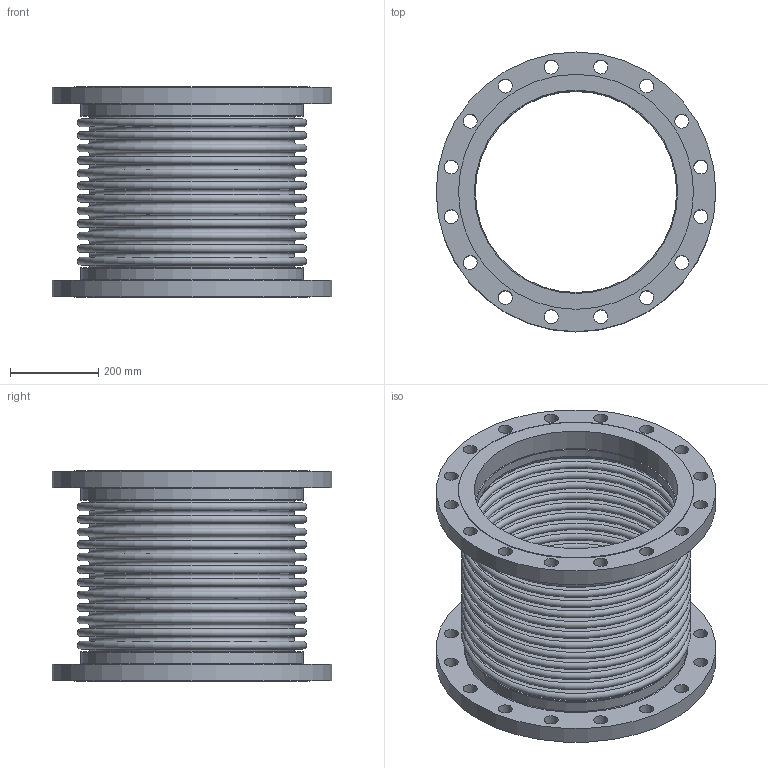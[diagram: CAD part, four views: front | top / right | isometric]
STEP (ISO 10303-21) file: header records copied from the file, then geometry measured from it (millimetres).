
FILE_DESCRIPTION(/* description */ ('EXPANSION JOINT,SINGLE, FLANGED ENDS,18 INCH','CAx-IF Rec.Pracs.---Representation and Presentation of Product Manufacturing Information (PMI)---4.0---2014-10-13'),/* implementation_level */ '2;1');
FILE_NAME(/* name */ 'US-18-12-300L-FLANGED ENDS.stp',/* time_stamp */ '2026-07-31T17:36:52-05:00',/* author */ ('Guadalupe'),/* organization */ (''),/* preprocessor_version */ 'ST-DEVELOPER v20.1',/* originating_system */ 'Autodesk Inventor 2026',/* authorisation */ '');
FILE_SCHEMA (('AP242_MANAGED_MODEL_BASED_3D_ENGINEERING_MIM_LF { 1 0 10303 442 2 1 4 }'));
Length unit declared in the file: inch
Products named in the file (3): 18-300L; 18-300L-02; 18-300L-01
Assembly tree (3 placements, depth 2):
  18-300L
    18-300L-02  x2
    18-300L-01
Bounding box: 635 x 635 x 479.04 mm (x, y, z)
Volume: 16750663.7 mm3; surface area: 3962723.2 mm2
Topology: 5 solids, 5 shells, 160 faces, 294 edges, 196 vertices
Faces by surface type: plane 62, torus 54, cylinder 44
Full cylindrical faces by diameter (mm): 31.75 x32, 457.2 x2, 461.772 x2, 463.296 x2, 504.952 x2, 533.4 x2, 635 x2
Entity records: 3606 total; most frequent: DIRECTION 738, CARTESIAN_POINT 537, ORIENTED_EDGE 456, AXIS2_PLACEMENT_3D 357, EDGE_CURVE 228, EDGE_LOOP 224, CIRCLE 204, VERTEX_POINT 152
